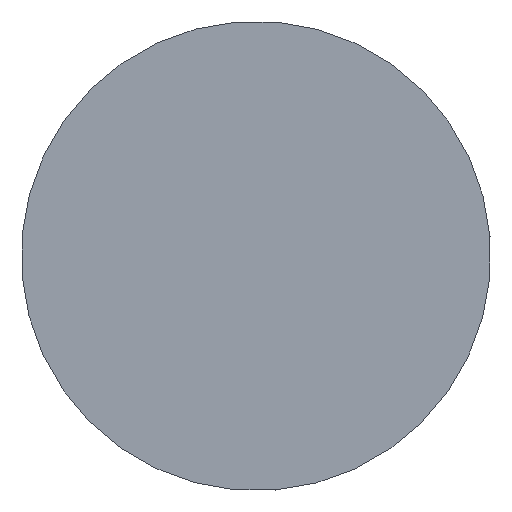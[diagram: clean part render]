
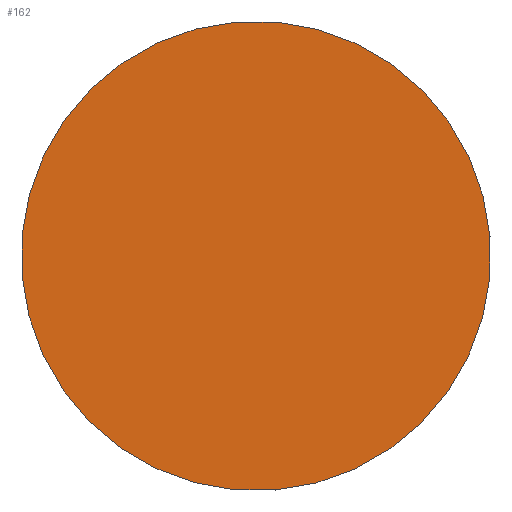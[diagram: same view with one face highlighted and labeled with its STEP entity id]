
A CAD part, left-side view. The second image highlights one B-rep face of the part: STEP entity #162.
In plain terms, the highlighted planar face has unit normal (-1, 0, 0).
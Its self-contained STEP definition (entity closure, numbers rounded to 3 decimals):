
#4 = DIRECTION ( 'NONE',  ( 0., 0., -1. ) ) ;
#10 = FACE_OUTER_BOUND ( 'NONE', #349, .T. ) ;
#13 = EDGE_CURVE ( 'NONE', #225, #76, #453, .T. ) ;
#21 = ORIENTED_EDGE ( 'NONE', *, *, #91, .F. ) ;
#23 = ORIENTED_EDGE ( 'NONE', *, *, #13, .F. ) ;
#41 = CARTESIAN_POINT ( 'NONE',  ( -80., 0., 0. ) ) ;
#47 = CIRCLE ( 'NONE', #326, 3. ) ;
#48 = CARTESIAN_POINT ( 'NONE',  ( -80., 0., 3. ) ) ;
#76 = VERTEX_POINT ( 'NONE', #243 ) ;
#91 = EDGE_CURVE ( 'NONE', #76, #225, #47, .T. ) ;
#105 = DIRECTION ( 'NONE',  ( 0., 0., -1. ) ) ;
#114 = DIRECTION ( 'NONE',  ( -1., 0., 0. ) ) ;
#162 = ADVANCED_FACE ( 'NONE', ( #10 ), #260, .T. ) ;
#209 = DIRECTION ( 'NONE',  ( 0., 0., 1. ) ) ;
#225 = VERTEX_POINT ( 'NONE', #48 ) ;
#226 = AXIS2_PLACEMENT_3D ( 'NONE', #323, #114, #209 ) ;
#240 = CARTESIAN_POINT ( 'NONE',  ( -80., 0., 0. ) ) ;
#243 = CARTESIAN_POINT ( 'NONE',  ( -80., 0., -3. ) ) ;
#260 = PLANE ( 'NONE',  #226 ) ;
#269 = AXIS2_PLACEMENT_3D ( 'NONE', #41, #428, #105 ) ;
#320 = DIRECTION ( 'NONE',  ( 1., 0., 0. ) ) ;
#323 = CARTESIAN_POINT ( 'NONE',  ( -80., 3., 0. ) ) ;
#326 = AXIS2_PLACEMENT_3D ( 'NONE', #240, #320, #4 ) ;
#349 = EDGE_LOOP ( 'NONE', ( #21, #23 ) ) ;
#428 = DIRECTION ( 'NONE',  ( 1., 0., 0. ) ) ;
#453 = CIRCLE ( 'NONE', #269, 3. ) ;
